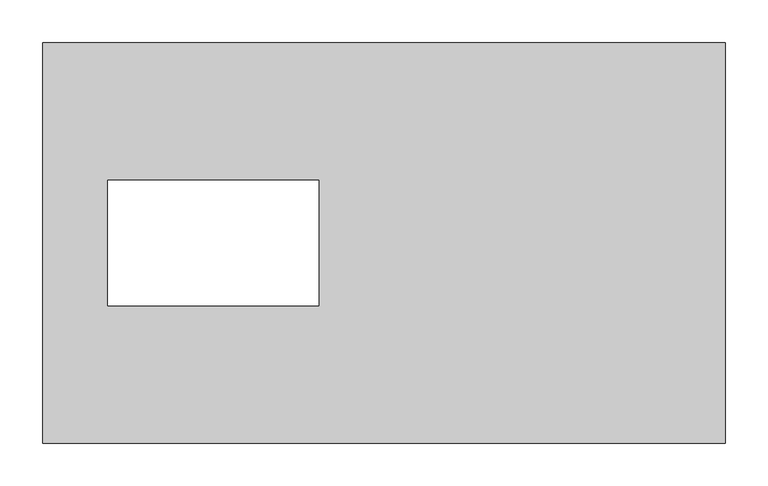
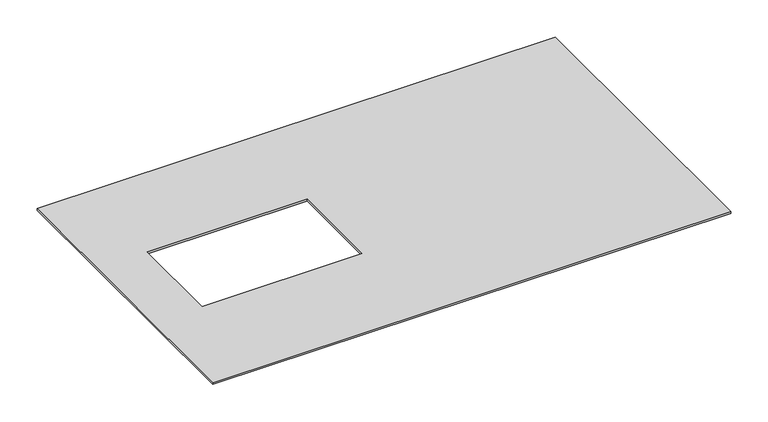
"""IFC4 building model written with IfcOpenShell, lengths in millimetres: proxy geometry, Electrical_Installation_Hager_Cover-E04-BKA : Electrical_Installation_Hager_Cover-E04-BKA."""

from ifc_helpers import new_model, si_unit, frame, origin, place, context, project, spatial, polyline, outline, extrude, source, transform, mapped, element, save


def electrical_fixtures_6d8ac3d6(model_context):
    return source(origin(), model_context, "Body", "SweptSolid", [
        extrude(outline(polyline([(800.0, 234.75), (800.0, -234.75), (0.0, -234.75), (0.0, 234.75), (800.0, 234.75)]), holes=[polyline([(323.5, 73.5), (76.5, 73.5), (76.5, -73.5), (323.5, -73.5), (323.5, 73.5)])]), frame((0.0, 0.0, 10.0), z_axis=(0.0, 0.0, 1.0), x_axis=(1.0, 0.0, 0.0)), (0.0, 0.0, 1.0), 3.0),
    ])


if __name__ == "__main__":
    model = new_model("IFC4")
    model_context = context("Model", 3, world=origin())
    ifc_project = project(units=[si_unit("LENGTHUNIT", "METRE", prefix="MILLI")], contexts=[model_context])
    site = spatial("IfcSite", under=ifc_project)
    building = spatial("IfcBuilding", under=site)
    placement = place(None, origin())
    electrical_fixtures_shape = electrical_fixtures_6d8ac3d6(model_context)
    element("IfcBuildingElementProxy", 1, Name="Electrical_Installation_Hager_Cover-E04-BKA : Electrical_Installation_Hager_Cover-E04-BKA", ObjectType="Electrical_Installation_Hager_Cover-E04-BKA : Electrical_Installation_Hager_Cover-E04-BKA", at=placement, inside=building, context=model_context, shape_type="MappedRepresentation", body=[
        mapped(electrical_fixtures_shape, transform((0.0, 0.0, 0.0), x_axis=(1.0, 0.0, 0.0), y_axis=(0.0, 1.0, 0.0), z_axis=(0.0, 0.0, 1.0))),
    ])
    save(model, "model.ifc")
